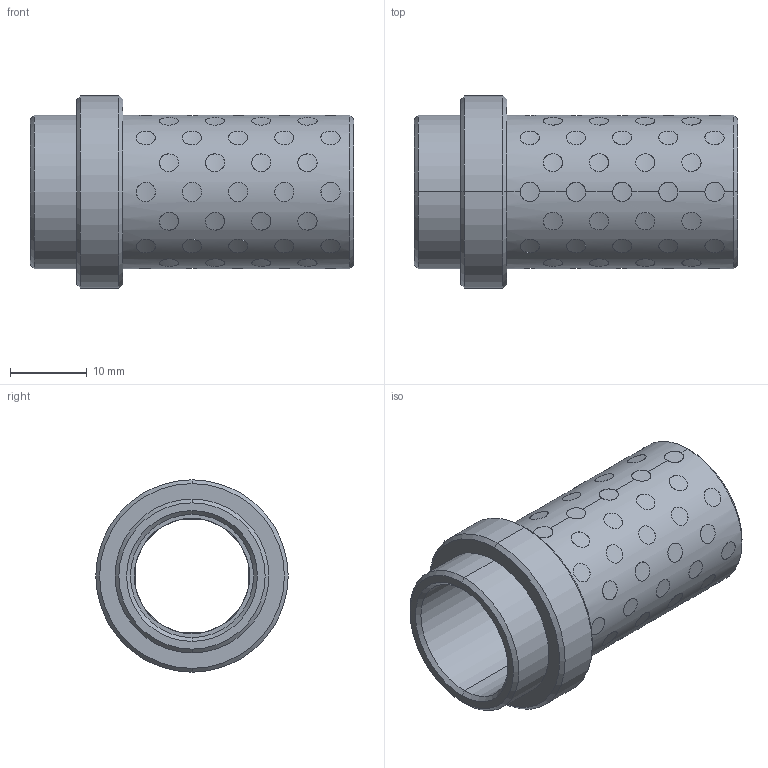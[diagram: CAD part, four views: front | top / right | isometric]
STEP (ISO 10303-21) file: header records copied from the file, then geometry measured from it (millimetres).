
FILE_DESCRIPTION((''),'2;1');
FILE_NAME('G31215036','2017-12-30T',('MANU'),(''),'PRO/ENGINEER BY PARAMETRIC TECHNOLOGY CORPORATION, 2012130','PRO/ENGINEER BY PARAMETRIC TECHNOLOGY CORPORATION, 2012130','');
FILE_SCHEMA(('CONFIG_CONTROL_DESIGN'));
Length unit declared in the file: millimetre
Products named in the file (1): G31215036
Bounding box: 42 x 25 x 25 mm (x, y, z)
Volume: 6482.9 mm3; surface area: 8091.6 mm2
Topology: 73 solids, 73 shells, 459 faces, 978 edges, 648 vertices
Faces by surface type: cylinder 442, cone 12, plane 5
Entity records: 20530 total; most frequent: CARTESIAN_POINT 11553, ORIENTED_EDGE 1956, DIRECTION 1312, EDGE_CURVE 978, VERTEX_POINT 648, B_SPLINE_CURVE_WITH_KNOTS 616, EDGE_LOOP 588, AXIS2_PLACEMENT_3D 491
